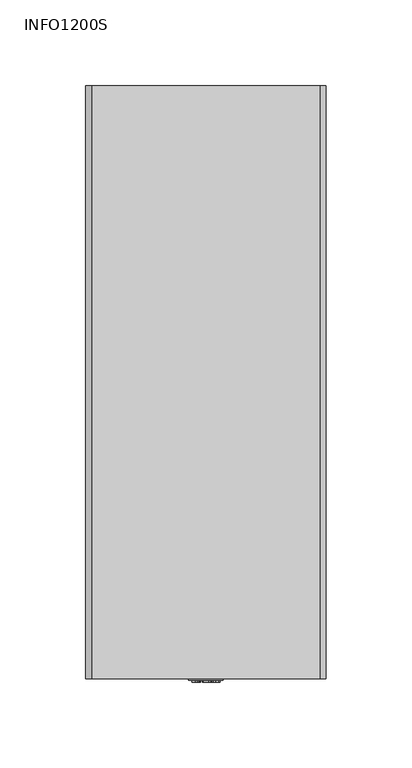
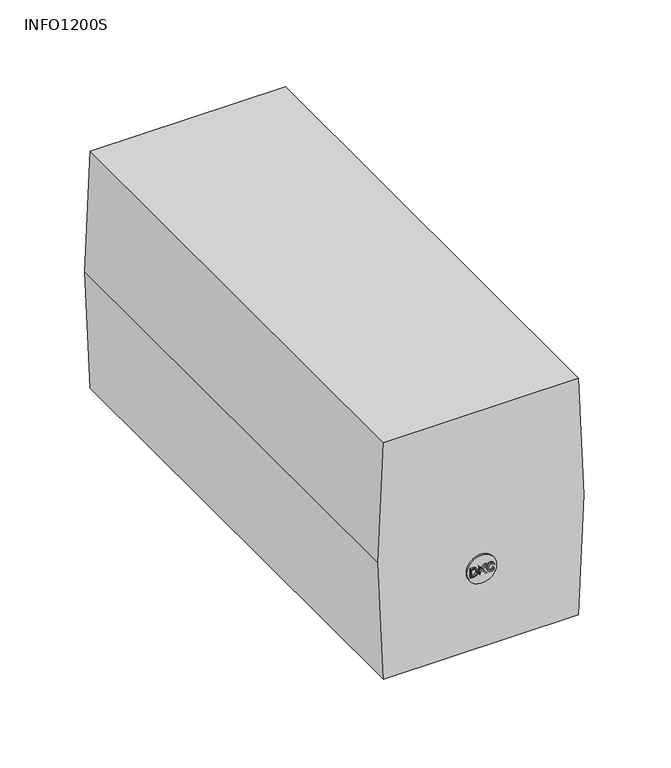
"""IFC4 building model written with IfcOpenShell, lengths in millimetres: proxy geometry, НВО_КНС_ИБПInfo_DKC : INFO1200S."""

import ifcopenshell
import ifcopenshell.guid

model = None  # the IFC model being written
_history = None  # IfcOwnerHistory: only IFC2X3 demands one
_inside = {}  # id of a spatial element -> (the spatial element, [elements in it])
_under = {}  # id of a project, library or spatial element -> (it, [spatial elements below it])
_declared = {}  # id of a project -> (the project, [libraries it declares])
_typed = {}  # id of a type object -> (the type object, [elements of that type])
_made_of = {}  # id of a material, layer set ... -> (it, [elements and type objects made of it])


def new_model(schema):
    """Start an empty IFC model of exactly this schema.

    Asked for "IFC4X3", IfcOpenShell would pick the latest addendum, in which some entities
    have other attributes; the version numbers below select the first issue.
    IFC2X3 requires an IfcOwnerHistory on every rooted entity: one is made here for all.
    """
    global model, _history
    if schema == "IFC4X3":
        model = ifcopenshell.file(schema_version=(4, 3, 0, 0))
    else:
        model = ifcopenshell.file(schema=schema)
    _inside.clear()
    _under.clear()
    _declared.clear()
    _typed.clear()
    _made_of.clear()
    _history = None
    if model.schema == "IFC2X3":
        org = make("IfcOrganization", Name="unknown")
        user = make(
            "IfcPersonAndOrganization",
            ThePerson=make("IfcPerson", FamilyName="unknown"),
            TheOrganization=org,
        )
        app = make(
            "IfcApplication",
            ApplicationDeveloper=org,
            Version="unknown",
            ApplicationFullName="unknown",
            ApplicationIdentifier="unknown",
        )
        _history = make(
            "IfcOwnerHistory",
            OwningUser=user,
            OwningApplication=app,
            ChangeAction="ADDED",
            CreationDate=0,
        )
    return model


def make(cls, **values):
    """One entity of the class cls with the attributes given. An attribute that is None is left unset."""
    return model.create_entity(
        cls, **{name: value for name, value in values.items() if value is not None}
    )


def rooted(cls, **values):
    """An entity with a GlobalId (a new one), such as an element, a storey or a relation."""
    return make(cls, GlobalId=ifcopenshell.guid.new(), OwnerHistory=_history, **values)


def si_unit(unit_type, name, prefix=None):
    """IfcSIUnit, for example si_unit("LENGTHUNIT", "METRE", prefix="MILLI")."""
    return make("IfcSIUnit", UnitType=unit_type, Prefix=prefix, Name=name)


def assignment(units):
    """IfcUnitAssignment: the units of a project."""
    return None if units is None else make("IfcUnitAssignment", Units=units)


def point(xyz):
    """IfcCartesianPoint."""
    return None if xyz is None else make("IfcCartesianPoint", Coordinates=xyz)


def direction(xyz):
    """IfcDirection."""
    return None if xyz is None else make("IfcDirection", DirectionRatios=xyz)


def frame(location, z_axis=None, x_axis=None):
    """IfcAxis2Placement3D, a coordinate frame: its origin and axes. An axis left out is left unset."""
    return make(
        "IfcAxis2Placement3D",
        Location=point(location),
        Axis=direction(z_axis),
        RefDirection=direction(x_axis),
    )


def frame_2d(location, x_axis=None):
    """IfcAxis2Placement2D, a coordinate frame in the plane: its origin and x axis."""
    return make(
        "IfcAxis2Placement2D", Location=point(location), RefDirection=direction(x_axis)
    )


def origin():
    """The frame at (0, 0, 0) with its axes left unset."""
    return frame((0.0, 0.0, 0.0))


def place(relative_to, where):
    """IfcLocalPlacement: puts the frame where relative to a parent placement (None: the world)."""
    return make(
        "IfcLocalPlacement", PlacementRelTo=relative_to, RelativePlacement=where
    )


def context(
    kind, dimensions, precision=None, world=None, true_north=None, identifier=None
):
    """IfcGeometricRepresentationContext, for example the 3D "Model" context."""
    return make(
        "IfcGeometricRepresentationContext",
        ContextIdentifier=identifier,
        ContextType=kind,
        CoordinateSpaceDimension=dimensions,
        Precision=precision,
        WorldCoordinateSystem=world,
        TrueNorth=true_north,
    )


def project(units=None, contexts=None):
    """IfcProject with its units and contexts."""
    return rooted(
        "IfcProject",
        Name="project",
        RepresentationContexts=contexts,
        UnitsInContext=assignment(units),
    )


def spatial(cls, under=None, at=None, **own):
    """A site, building, storey or space (cls), placed at a placement, below another one or the project."""
    s = rooted(cls, ObjectPlacement=at, **own)
    if under is not None:
        _under.setdefault(under.id(), (under, []))[1].append(s)
    return s


def polyline(points):
    """IfcPolyline through the points."""
    return make("IfcPolyline", Points=[point(p) for p in points])


def circle_curve(where, radius):
    """IfcCircle in the frame where."""
    return make("IfcCircle", Position=where, Radius=radius)


def trimmed(basis, trim1, trim2, sense, master):
    """IfcTrimmedCurve: the piece of a basis curve between two trims."""
    return make(
        "IfcTrimmedCurve",
        BasisCurve=basis,
        Trim1=trim1,
        Trim2=trim2,
        SenseAgreement=sense,
        MasterRepresentation=master,
    )


def segment(curve, same_sense, transition):
    """IfcCompositeCurveSegment."""
    return make(
        "IfcCompositeCurveSegment",
        Transition=transition,
        SameSense=same_sense,
        ParentCurve=curve,
    )


def composite_curve(segments, self_intersect=None):
    """IfcCompositeCurve: segments joined end to end."""
    return make("IfcCompositeCurve", Segments=segments, SelfIntersect=self_intersect)


def outline(outer, holes=None, kind="AREA"):
    """IfcArbitraryClosedProfileDef: a profile drawn as a closed curve; with holes, ...WithVoids."""
    if holes is None:
        return make("IfcArbitraryClosedProfileDef", ProfileType=kind, OuterCurve=outer)
    return make(
        "IfcArbitraryProfileDefWithVoids",
        ProfileType=kind,
        OuterCurve=outer,
        InnerCurves=holes,
    )


def extrude(swept, where, along, depth):
    """IfcExtrudedAreaSolid: the profile swept, set in the frame where, extruded along a direction by depth."""
    return make(
        "IfcExtrudedAreaSolid",
        SweptArea=swept,
        Position=where,
        ExtrudedDirection=direction(along),
        Depth=depth,
    )


def shape(context_of_items, identifier, shape_type, items):
    """IfcShapeRepresentation: the items that make up one representation, for example the "Body"."""
    return make(
        "IfcShapeRepresentation",
        ContextOfItems=context_of_items,
        RepresentationIdentifier=identifier,
        RepresentationType=shape_type,
        Items=items,
    )


def source(mapping_origin, context_of_items, identifier, shape_type, items):
    """IfcRepresentationMap: a shape defined once, which mapped items show again and again."""
    return make(
        "IfcRepresentationMap",
        MappingOrigin=mapping_origin,
        MappedRepresentation=shape(context_of_items, identifier, shape_type, items),
    )


def transform(
    local_origin,
    x_axis=None,
    y_axis=None,
    z_axis=None,
    scale=None,
    scale2=None,
    scale3=None,
    uniform=True,
):
    """IfcCartesianTransformationOperator3D, or its non-uniform kind. x_axis, y_axis, z_axis: its Axis1, 2, 3."""
    if uniform:
        return make(
            "IfcCartesianTransformationOperator3D",
            Axis1=direction(x_axis),
            Axis2=direction(y_axis),
            LocalOrigin=point(local_origin),
            Scale=scale,
            Axis3=direction(z_axis),
        )
    return make(
        "IfcCartesianTransformationOperator3DnonUniform",
        Axis1=direction(x_axis),
        Axis2=direction(y_axis),
        LocalOrigin=point(local_origin),
        Scale=scale,
        Axis3=direction(z_axis),
        Scale2=scale2,
        Scale3=scale3,
    )


def mapped(mapping_source, mapping_target):
    """IfcMappedItem: shows the shape of a source again, moved by a transform."""
    return make(
        "IfcMappedItem", MappingSource=mapping_source, MappingTarget=mapping_target
    )


def made_of(thing, what):
    """Note that an element or type object is made of a material, layer set ...; save() writes the relation."""
    if what is not None:
        _made_of.setdefault(what.id(), (what, []))[1].append(thing)
    return thing


def element(
    cls,
    number,
    at=None,
    inside=None,
    cuts=None,
    type_object=None,
    material=None,
    context=None,
    identifier="Body",
    shape_type=None,
    held_by="IfcProductDefinitionShape",
    body=None,
    shapes=None,
    **own,
):
    """One element of the class cls, such as IfcWall. Its Tag is "e" and its number.

    at: its placement. inside: the storey or other place that contains it. cuts: it is an
    opening in that element (IfcRelVoidsElement). A single representation is given by context,
    identifier, shape_type and body (its items); several are given by shapes. held_by: the class
    of the entity that holds the representations. save() writes the other relations.
    """
    e = rooted(cls, Tag="e%d" % number, ObjectPlacement=at, **own)
    if body is not None:
        shapes = [shape(context, identifier, shape_type, body)]
    if shapes is not None:
        e.Representation = make(held_by, Representations=shapes)
    if inside is not None:
        _inside.setdefault(inside.id(), (inside, []))[1].append(e)
    if cuts is not None:
        rooted(
            "IfcRelVoidsElement", RelatingBuildingElement=cuts, RelatedOpeningElement=e
        )
    if type_object is not None:
        _typed.setdefault(type_object.id(), (type_object, []))[1].append(e)
    return made_of(e, material)


def aggregate(whole, parts):
    """IfcRelAggregates: a whole, such as a stair, and the parts it consists of."""
    return rooted("IfcRelAggregates", RelatingObject=whole, RelatedObjects=parts)


def save(model, path):
    """Write the relations noted so far, then the file.

    IfcRelAggregates (storeys below a building ...), IfcRelContainedInSpatialStructure (elements
    in a storey), IfcRelDefinesByType, IfcRelAssociatesMaterial and IfcRelDeclares: one each for
    every whole, place, type object, material and project.
    """
    for whole, parts in _under.values():
        aggregate(whole, parts)
    for where, things in _inside.values():
        rooted(
            "IfcRelContainedInSpatialStructure",
            RelatedElements=things,
            RelatingStructure=where,
        )
    for kind, things in _typed.values():
        rooted("IfcRelDefinesByType", RelatedObjects=things, RelatingType=kind)
    for what, things in _made_of.values():
        rooted("IfcRelAssociatesMaterial", RelatedObjects=things, RelatingMaterial=what)
    for by, libraries in _declared.values():
        rooted("IfcRelDeclares", RelatingContext=by, RelatedDefinitions=libraries)
    model.write(path)


def info1200s_5d6a48d0(model_context):
    return source(origin(), model_context, "Body", "SweptSolid", [
        extrude(outline(polyline([(53.6666667, -8.1463789), (53.6666667, -5.967046), (53.7696736, -4.9980448), (54.6187453, -3.7273804), (55.4965117, -3.3153525), (56.7127296, -3.154956), (58.1459978, -3.391872), (59.1760674, -4.1055631), (59.6072251, -4.9914229), (59.6940453, -6.0671099), (59.6940453, -8.1463789), (53.6666667, -8.1463789)]), holes=[polyline([(54.420089, -7.3929566), (58.9406229, -7.3929566), (58.9406229, -6.0803536), (58.8199577, -5.0120243), (58.151884, -4.2299072), (56.7245018, -3.9083783), (55.5848034, -4.0724537), (54.5289821, -5.0900153), (54.420089, -6.0597522), (54.420089, -7.3929566)])]), frame((0.0, -2.0, 0.0), z_axis=(0.0, 1.0, 0.0), x_axis=(0.0, 0.0, 1.0)), (0.0, 0.0, 1.0), 6.0),
        extrude(outline(polyline([(53.6666667, -1.7422891), (55.7385781, -1.365578), (56.7068435, -0.3502237), (53.6666667, 1.9512461), (53.6666667, 2.8724226), (57.2159922, 0.183941), (59.6940453, 2.7782448), (59.6940453, 1.7246308), (56.7436317, -1.365578), (59.6940453, -2.1190003), (53.6666667, -1.7422891)])), frame((0.0, -2.0, 0.0), z_axis=(0.0, 1.0, 0.0), x_axis=(0.0, 0.0, 1.0)), (0.0, 0.0, 1.0), 6.0),
        extrude(outline(polyline([(55.8092114, 7.6754899), (54.6996793, 7.036111), (54.3259112, 5.8831689), (54.6003512, 4.8435343), (55.4295572, 4.1357294), (56.7274449, 3.9083783), (57.8472777, 4.1004127), (58.7125361, 4.7662791), (59.0348007, 5.944973), (58.744174, 6.9632704), (57.9973735, 8.3347345), (59.3188056, 7.4834555), (59.7882231, 5.9744036), (59.4254914, 4.5264201), (58.363784, 3.5118015), (56.7259733, 3.154956), (55.1146502, 3.4705987), (53.9683299, 4.3903037), (53.5724889, 5.9582168), (54.0956171, 7.5356948), (55.8092114, 7.6754899)])), frame((0.0, -2.0, 0.0), z_axis=(0.0, 1.0, 0.0), x_axis=(0.0, 0.0, 1.0)), (0.0, 0.0, 1.0), 6.0),
        extrude(outline(composite_curve([segment(trimmed(circle_curve(frame_2d((56.6666667, 0.0)), 10.0), [point((56.6666667, -10.0))], [point((56.6666667, 10.0))], False, "CARTESIAN"), True, "CONTINUOUS"), segment(trimmed(circle_curve(frame_2d((56.6666667, 0.0)), 10.0), [point((56.6666667, 10.0))], [point((56.6666667, -10.0))], False, "CARTESIAN"), True, "CONTINUOUS")], self_intersect=False)), frame((0.0, -1.0, 0.0), z_axis=(0.0, 1.0, 0.0), x_axis=(0.0, 0.0, 1.0)), (0.0, 0.0, 1.0), 10.0),
        extrude(outline(polyline([(0.0, -66.2634777), (0.0, 66.2634777), (85.0, 70.0), (170.0, 66.2634777), (170.0, -66.2634777), (85.0, -70.0), (0.0, -66.2634777)])), frame((0.0, 0.0, 0.0), z_axis=(0.0, 1.0, 0.0), x_axis=(0.0, 0.0, 1.0)), (0.0, 0.0, 1.0), 345.0),
    ])


if __name__ == "__main__":
    model = new_model("IFC4")
    model_context = context("Model", 3, world=origin())
    ifc_project = project(units=[si_unit("LENGTHUNIT", "METRE", prefix="MILLI")], contexts=[model_context])
    site = spatial("IfcSite", under=ifc_project)
    building = spatial("IfcBuilding", under=site)
    placement = place(None, origin())
    info1200s_shape = info1200s_5d6a48d0(model_context)
    element("IfcBuildingElementProxy", 1, Name="НВО_КНС_ИБПInfo_DKC : INFO1200S", ObjectType="НВО_КНС_ИБПInfo_DKC : INFO1200S", at=placement, inside=building, context=model_context, shape_type="MappedRepresentation", body=[
        mapped(info1200s_shape, transform((0.0, 0.0, 0.0), x_axis=(1.0, 0.0, 0.0), y_axis=(0.0, 1.0, 0.0), z_axis=(0.0, 0.0, 1.0))),
    ])
    save(model, "model.ifc")
